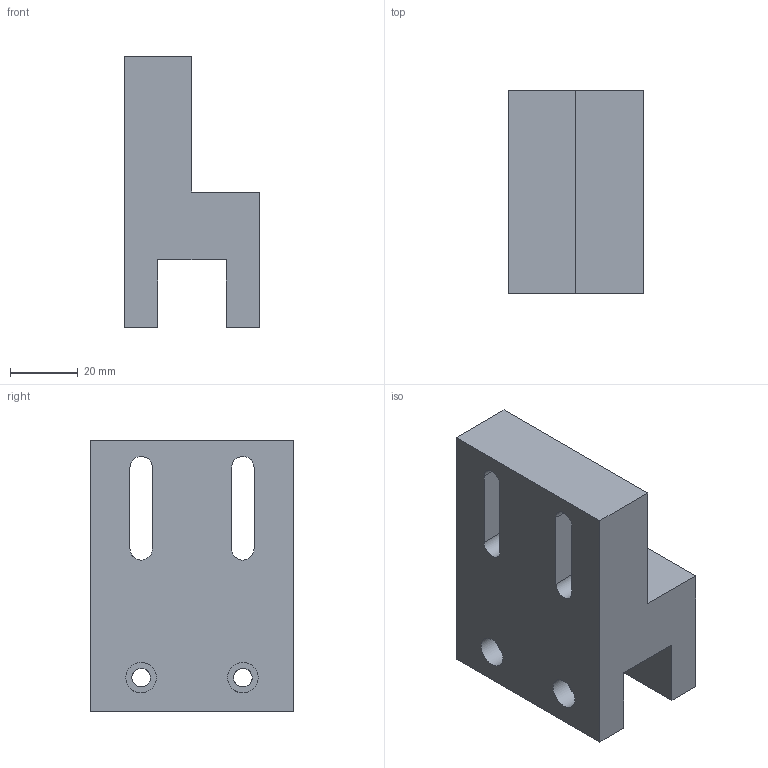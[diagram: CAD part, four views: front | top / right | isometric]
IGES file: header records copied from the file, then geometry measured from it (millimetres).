
Global section: file name: 固定件7; native system: Autodesk Inventor 2025; preprocessor: unknown; author: 97163; date: 20260318.135226; units: millimetre
Bounding box: 40.1 x 60 x 80 mm (x, y, z)
Volume: 106337.6 mm3; surface area: 23907.8 mm2
Topology: 1 solids, 1 shells, 42 faces, 114 edges, 80 vertices
Faces by surface type: bspline 42
